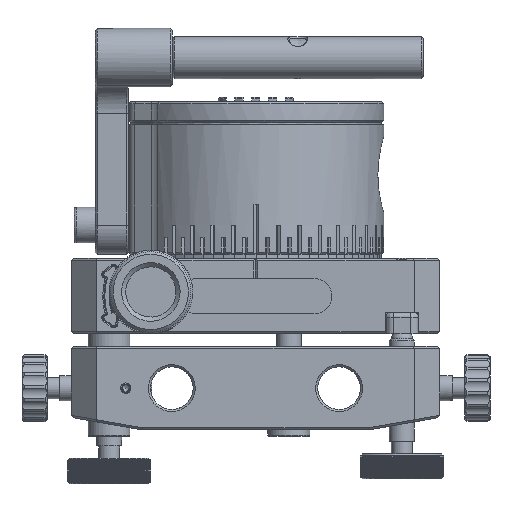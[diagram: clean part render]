
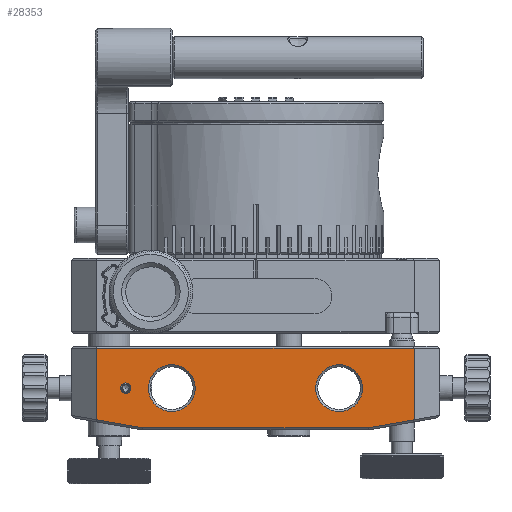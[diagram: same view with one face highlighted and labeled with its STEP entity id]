
A CAD part, front view. The second image highlights one B-rep face of the part: STEP entity #28353.
In plain terms, the highlighted planar face has unit normal (0, -1, 0).
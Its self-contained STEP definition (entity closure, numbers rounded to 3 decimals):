
#24382=CIRCLE('',#77656,5.6);
#24383=CIRCLE('',#77658,1.23);
#24384=CIRCLE('',#77659,1.23);
#24385=CIRCLE('',#77660,5.6);
#27017=FACE_BOUND('',#36238,.T.);
#27018=FACE_BOUND('',#36239,.T.);
#27019=FACE_BOUND('',#36240,.T.);
#27020=FACE_BOUND('',#36241,.T.);
#28353=ADVANCED_FACE('',(#27017,#27018,#27019,#27020),#30911,.T.);
#30911=PLANE('',#77661);
#36238=EDGE_LOOP('',(#45705,#45706,#45707,#45708,#45709,#45710));
#36239=EDGE_LOOP('',(#45711));
#36240=EDGE_LOOP('',(#45712,#45713));
#36241=EDGE_LOOP('',(#45714));
#45705=ORIENTED_EDGE('',*,*,#65203,.F.);
#45706=ORIENTED_EDGE('',*,*,#65204,.F.);
#45707=ORIENTED_EDGE('',*,*,#65205,.F.);
#45708=ORIENTED_EDGE('',*,*,#65197,.F.);
#45709=ORIENTED_EDGE('',*,*,#65206,.F.);
#45710=ORIENTED_EDGE('',*,*,#65207,.F.);
#45711=ORIENTED_EDGE('',*,*,#65202,.F.);
#45712=ORIENTED_EDGE('',*,*,#65208,.T.);
#45713=ORIENTED_EDGE('',*,*,#65209,.T.);
#45714=ORIENTED_EDGE('',*,*,#65210,.F.);
#58535=VERTEX_POINT('',#107940);
#58537=VERTEX_POINT('',#107943);
#58539=VERTEX_POINT('',#107950);
#58540=VERTEX_POINT('',#107954);
#58541=VERTEX_POINT('',#107955);
#58542=VERTEX_POINT('',#107957);
#58543=VERTEX_POINT('',#107960);
#58544=VERTEX_POINT('',#107963);
#58545=VERTEX_POINT('',#107964);
#58546=VERTEX_POINT('',#107967);
#65197=EDGE_CURVE('',#58535,#58537,#71426,.T.);
#65202=EDGE_CURVE('',#58539,#58539,#24382,.T.);
#65203=EDGE_CURVE('',#58540,#58541,#71430,.T.);
#65204=EDGE_CURVE('',#58542,#58540,#71431,.T.);
#65205=EDGE_CURVE('',#58537,#58542,#71432,.T.);
#65206=EDGE_CURVE('',#58543,#58535,#71433,.T.);
#65207=EDGE_CURVE('',#58541,#58543,#71434,.T.);
#65208=EDGE_CURVE('',#58544,#58545,#24383,.T.);
#65209=EDGE_CURVE('',#58545,#58544,#24384,.T.);
#65210=EDGE_CURVE('',#58546,#58546,#24385,.T.);
#71426=LINE('',#107942,#74155);
#71430=LINE('',#107953,#74159);
#71431=LINE('',#107956,#74160);
#71432=LINE('',#107958,#74161);
#71433=LINE('',#107959,#74162);
#71434=LINE('',#107961,#74163);
#74155=VECTOR('',#84925,1.);
#74159=VECTOR('',#84937,1.);
#74160=VECTOR('',#84938,1.);
#74161=VECTOR('',#84939,1.);
#74162=VECTOR('',#84940,1.);
#74163=VECTOR('',#84941,1.);
#77656=AXIS2_PLACEMENT_3D('',#107951,#84933,#84934);
#77658=AXIS2_PLACEMENT_3D('',#107962,#84942,#84943);
#77659=AXIS2_PLACEMENT_3D('',#107965,#84944,#84945);
#77660=AXIS2_PLACEMENT_3D('',#107966,#84946,#84947);
#77661=AXIS2_PLACEMENT_3D('',#107968,#84948,#84949);
#84925=DIRECTION('',(0.,0.,1.));
#84933=DIRECTION('',(0.,-1.,0.));
#84934=DIRECTION('',(1.,0.,0.));
#84937=DIRECTION('',(-0.985,0.,-0.174));
#84938=DIRECTION('',(0.,0.,-1.));
#84939=DIRECTION('',(1.,0.,0.));
#84940=DIRECTION('',(-0.985,0.,0.174));
#84941=DIRECTION('',(-1.,0.,0.));
#84942=DIRECTION('',(0.,1.,0.));
#84943=DIRECTION('',(1.,0.,0.));
#84944=DIRECTION('',(0.,1.,0.));
#84945=DIRECTION('',(1.,0.,0.));
#84946=DIRECTION('',(0.,-1.,0.));
#84947=DIRECTION('',(1.,0.,0.));
#84948=DIRECTION('',(0.,-1.,0.));
#84949=DIRECTION('',(-1.,0.,0.));
#107940=CARTESIAN_POINT('',(-36.263,-71.939,-20.009));
#107942=CARTESIAN_POINT('',(-36.263,-71.939,-22.459));
#107943=CARTESIAN_POINT('',(-36.263,-71.939,-2.959));
#107950=CARTESIAN_POINT('',(-23.863,-71.939,-12.459));
#107951=CARTESIAN_POINT('',(-18.263,-71.939,-12.459));
#107953=CARTESIAN_POINT('',(-5.787,-71.939,-28.036));
#107954=CARTESIAN_POINT('',(39.737,-71.939,-20.009));
#107955=CARTESIAN_POINT('',(28.679,-71.939,-21.959));
#107956=CARTESIAN_POINT('',(39.737,-71.939,-22.459));
#107957=CARTESIAN_POINT('',(39.737,-71.939,-2.959));
#107958=CARTESIAN_POINT('',(-20.263,-71.939,-2.959));
#107959=CARTESIAN_POINT('',(-41.92,-71.939,-19.011));
#107960=CARTESIAN_POINT('',(-25.206,-71.939,-21.959));
#107961=CARTESIAN_POINT('',(-20.263,-71.939,-21.959));
#107962=CARTESIAN_POINT('',(-29.263,-71.939,-12.459));
#107963=CARTESIAN_POINT('',(-28.034,-71.939,-12.459));
#107964=CARTESIAN_POINT('',(-30.493,-71.939,-12.459));
#107965=CARTESIAN_POINT('',(-29.263,-71.939,-12.459));
#107966=CARTESIAN_POINT('',(21.737,-71.939,-12.459));
#107967=CARTESIAN_POINT('',(16.137,-71.939,-12.459));
#107968=CARTESIAN_POINT('',(-42.263,-71.939,-22.459));
